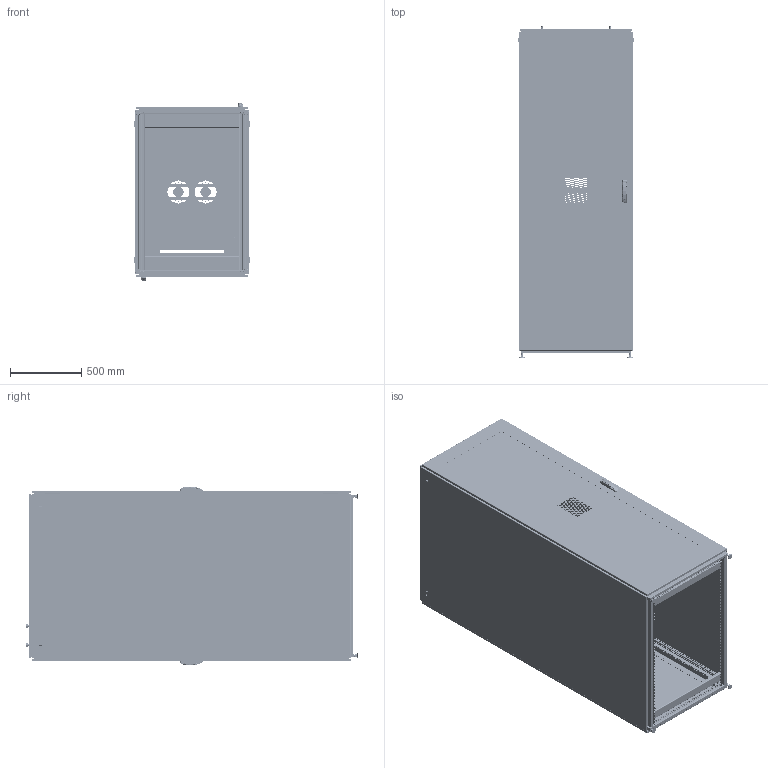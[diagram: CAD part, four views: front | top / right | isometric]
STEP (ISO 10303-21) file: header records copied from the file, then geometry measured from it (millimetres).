
FILE_DESCRIPTION (( 'STEP AP203' ), '1' );
FILE_NAME ('ps1c23812b.STEP', '2021-04-06T13:56:12', ( '' ), ( '' ), 'SwSTEP 2.0', 'SolidWorks 2016', '' );
FILE_SCHEMA (( 'CONFIG_CONTROL_DESIGN' ));
Length unit declared in the file: millimetre
Products named in the file (45): ps1c23812b; 87931368_SLEEVE; 89183746; 89183755; 89183790; 89183793; 89183780; 89165870; 89183782; 89183752; 60127013; 89165528_89165528; 99415203_99401225; 89183781; 87931527_87931527; 87755569; 89168254_1 INCH SQUARE; 89183758; 87417023; 87415413_87415413; 89183784; 99401225_Config-Drawing; 60100041_60100041; 89165778_89165778; 89090302; 11258733_Full Length flat; 60127135_installed position SS; 64127324; 89091664_875472289; 89183788; 87780929; 89101845; 60127101_After Weld; 87793688; 89090300; 89183792; 89183789; 89183419; 89183749; 89090299_87790201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
Assembly tree (118 placements, depth 5):
  ps1c23812b
    89183746
      60127013  x8
      89183789  x4
      30127079  x4
      87780929  x4
    89090302  x4
      89090300
        89090299_87790201
        60127135_installed position SS  x2
    89183749  x2
      89183752
        89183755
        89183758
        60100041_60100041  x2
          87931527_87931527
          87931368_SLEEVE
        60127101_After Weld  x2
        87920638_87920638  x6
      89165870
      89168254_1 INCH SQUARE
      89091664_875472289
      89165778_89165778
      89183790
      89101845
    64127324  x4
    89165528_89165528  x4
    89183792  x2
    89183793  x2
    87415413_87415413  x4
    89183780  x2
      89183781
        89183782
        60100041_60100041  x2
          87931527_87931527
          87931368_SLEEVE
        99401225_Config-Drawing  x4
      87417023
      87755569
      89183419
    89183784
      89183786
        89183788
        60100041_60100041  x5
          87931527_87931527
          87931368_SLEEVE
        99415203_99401225  x4
      87793688  x2
      45129001_45129001  x4
      11258733_Full Length flat
      11258733_Full Length flat
Bounding box: 810.31 x 2331.62 x 1256.82 mm (x, y, z)
Volume: 23873251.3 mm3; surface area: 29272501.9 mm2
Topology: 187 solids, 227 shells, 35110 faces, 94618 edges, 60657 vertices
Faces by surface type: plane 17445, cylinder 13087, torus 1966, bspline 1870, cone 610, sphere 132
Entity records: 417138 total; most frequent: CARTESIAN_POINT 105696, ORIENTED_EDGE 63174, DIRECTION 61882, EDGE_CURVE 31589, AXIS2_PLACEMENT_3D 21255, VERTEX_POINT 20421, VECTOR 19372, LINE 19372
